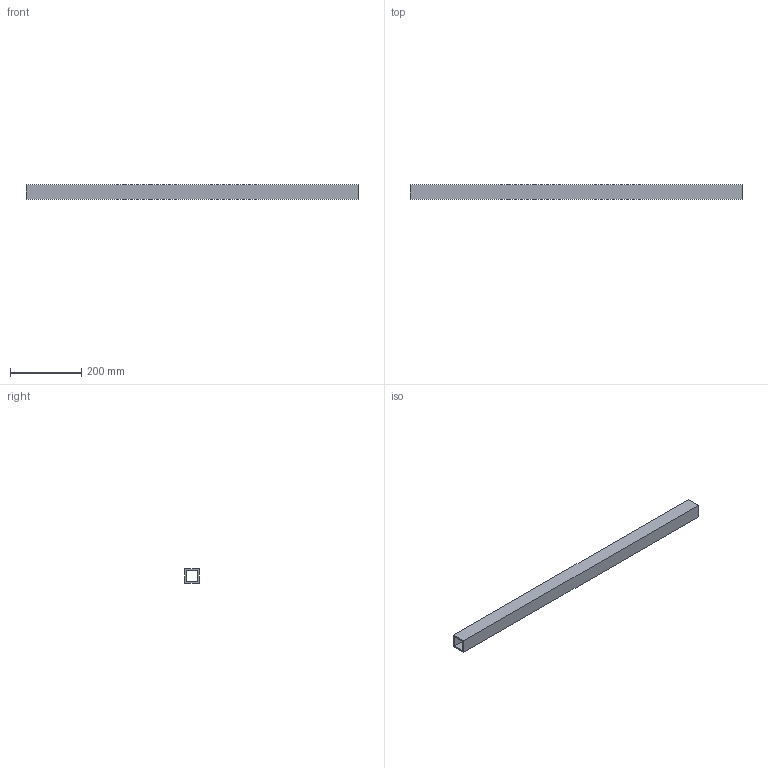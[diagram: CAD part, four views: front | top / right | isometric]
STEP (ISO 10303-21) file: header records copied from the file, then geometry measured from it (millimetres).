
FILE_DESCRIPTION(/* description */ (''),/* implementation_level */ '2;1');
FILE_NAME(/* name */ 'Pos118-Koker 40x40x4 EN 10219-2-S235JRH-8st',/* time_stamp */ '2024-08-06T11:42:42+02:00',/* author */ (''),/* organization */ (''),/* preprocessor_version */ 'ST-DEVELOPER v16.5',/* originating_system */ 'HiCAD 2024 2901.2 Build 361',/* authorisation */ '');
FILE_SCHEMA (('AUTOMOTIVE_DESIGN { 1 0 10303 214 1 1 1 1 }'));
Length unit declared in the file: millimetre
Products named in the file (1): Pos118-Koker 40x40x4 EN 10219-2-S235JRH-8st
Bounding box: 935 x 40 x 40 mm (x, y, z)
Volume: 538560 mm3; surface area: 270432 mm2
Topology: 1 solids, 1 shells, 10 faces, 24 edges, 16 vertices
Faces by surface type: plane 10
Entity records: 550 total; most frequent: CARTESIAN_POINT 50, PRESENTATION_STYLE_ASSIGNMENT 49, COLOUR_RGB 49, DRAUGHTING_PRE_DEFINED_CURVE_FONT 48, CURVE_STYLE 48, OVER_RIDING_STYLED_ITEM 48, ORIENTED_EDGE 48, DIRECTION 44
